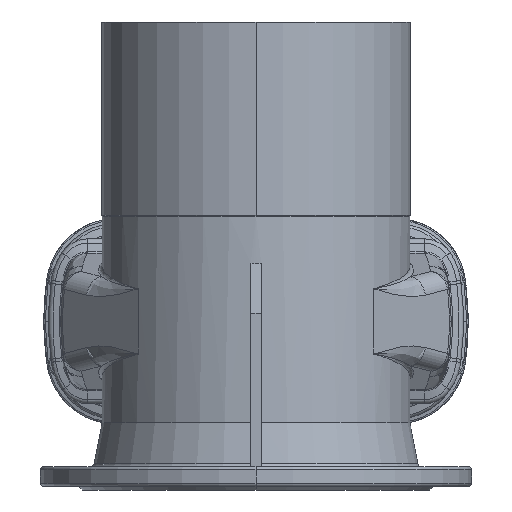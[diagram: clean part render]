
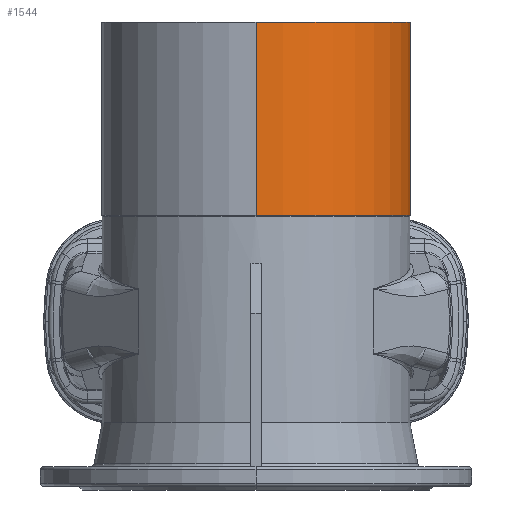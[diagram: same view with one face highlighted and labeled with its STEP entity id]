
A CAD part, front view. The second image highlights one B-rep face of the part: STEP entity #1544.
In plain terms, the highlighted cylindrical face has radius 163.2 mm (diameter 326.4 mm), a partial arc.
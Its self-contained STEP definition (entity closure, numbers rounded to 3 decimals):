
#1544 = ADVANCED_FACE ( 'NONE', ( #40098 ), #40100, .T. ) ;
#2476 = ORIENTED_EDGE ( 'NONE', *, *, #36512, .T. ) ;
#2477 = ORIENTED_EDGE ( 'NONE', *, *, #36513, .T. ) ;
#2478 = ORIENTED_EDGE ( 'NONE', *, *, #36514, .F. ) ;
#2479 = ORIENTED_EDGE ( 'NONE', *, *, #36515, .F. ) ;
#3688 = CARTESIAN_POINT ( 'NONE',  ( 0., -533.2, 112. ) ) ;
#3691 = CARTESIAN_POINT ( 'NONE',  ( 0., -206.8, 112. ) ) ;
#3693 = CARTESIAN_POINT ( 'NONE',  ( 0., -533.2, 316. ) ) ;
#3694 = CARTESIAN_POINT ( 'NONE',  ( 0., -206.8, 316. ) ) ;
#5820 = AXIS2_PLACEMENT_3D ( 'NONE', #27958, #27959, #27960 ) ;
#5821 = AXIS2_PLACEMENT_3D ( 'NONE', #27962, #27963, #27964 ) ;
#9711 = LINE ( 'NONE', #27957, #9716 ) ;
#9713 = CIRCLE ( 'NONE', #5820, 163.2 ) ;
#9715 = CIRCLE ( 'NONE', #5821, 163.2 ) ;
#9716 = VECTOR ( 'NONE', #27952, 1000. ) ;
#9717 = LINE ( 'NONE', #27949, #9719 ) ;
#9719 = VECTOR ( 'NONE', #27956, 1000. ) ;
#14908 = DIRECTION ( 'NONE',  ( 0., -1., 0. ) ) ;
#14910 = DIRECTION ( 'NONE',  ( 0., 0., 1. ) ) ;
#14934 = CARTESIAN_POINT ( 'NONE',  ( 0., -370., -269.292 ) ) ;
#27949 = CARTESIAN_POINT ( 'NONE',  ( 0., -533.2, -269.292 ) ) ;
#27952 = DIRECTION ( 'NONE',  ( 0., 0., 1. ) ) ;
#27956 = DIRECTION ( 'NONE',  ( 0., 0., 1. ) ) ;
#27957 = CARTESIAN_POINT ( 'NONE',  ( 0., -206.8, -269.292 ) ) ;
#27958 = CARTESIAN_POINT ( 'NONE',  ( 0., -370., 112. ) ) ;
#27959 = DIRECTION ( 'NONE',  ( 0., 0., 1. ) ) ;
#27960 = DIRECTION ( 'NONE',  ( 0., -1., 0. ) ) ;
#27962 = CARTESIAN_POINT ( 'NONE',  ( 0., -370., 316. ) ) ;
#27963 = DIRECTION ( 'NONE',  ( 0., 0., 1. ) ) ;
#27964 = DIRECTION ( 'NONE',  ( 0., -1., 0. ) ) ;
#33700 = EDGE_LOOP ( 'NONE', ( #2476, #2477, #2478, #2479 ) ) ;
#33832 = VERTEX_POINT ( 'NONE', #3688 ) ;
#33835 = VERTEX_POINT ( 'NONE', #3691 ) ;
#33837 = VERTEX_POINT ( 'NONE', #3693 ) ;
#33838 = VERTEX_POINT ( 'NONE', #3694 ) ;
#36512 = EDGE_CURVE ( 'NONE', #33832, #33835, #9713, .T. ) ;
#36513 = EDGE_CURVE ( 'NONE', #33835, #33838, #9711, .T. ) ;
#36514 = EDGE_CURVE ( 'NONE', #33837, #33838, #9715, .T. ) ;
#36515 = EDGE_CURVE ( 'NONE', #33832, #33837, #9717, .T. ) ;
#36735 = AXIS2_PLACEMENT_3D ( 'NONE', #14934, #14910, #14908 ) ;
#40098 = FACE_OUTER_BOUND ( 'NONE', #33700, .T. ) ;
#40100 = CYLINDRICAL_SURFACE ( 'NONE', #36735, 163.2 ) ;
